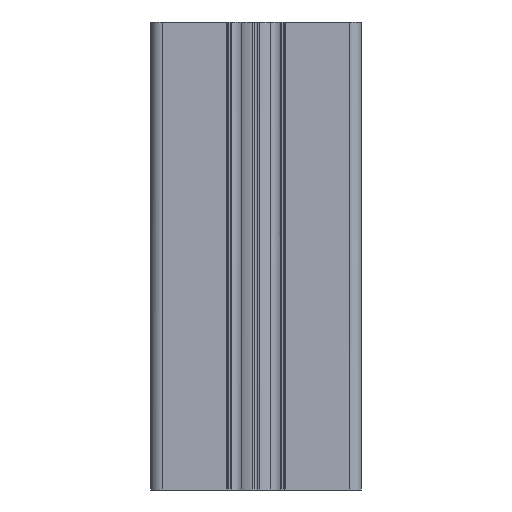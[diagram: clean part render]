
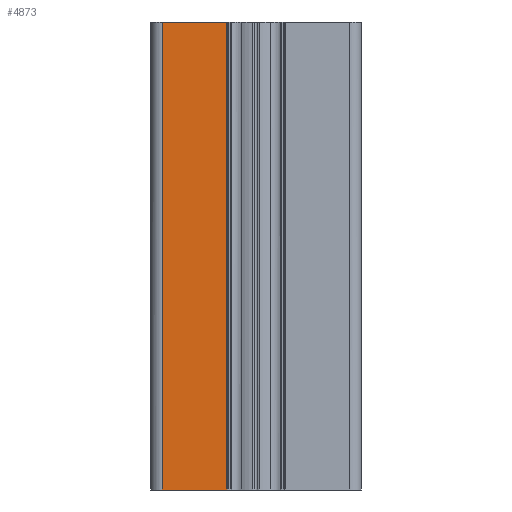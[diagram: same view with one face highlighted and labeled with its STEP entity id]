
A CAD part, front view. The second image highlights one B-rep face of the part: STEP entity #4873.
In plain terms, the highlighted free-form (B-spline) face has degree [1, 1] with [2, 2] control points.
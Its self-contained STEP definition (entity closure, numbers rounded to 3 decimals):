
#315 = EDGE_CURVE ( 'NONE', #6039, #2598, #6558, .T. ) ;
#620 = B_SPLINE_SURFACE_WITH_KNOTS ( 'NONE', 1, 1, ( 
 ( #4720, #9386 ),
 ( #1732, #3286 ) ),
 .UNSPECIFIED., .F., .F., .F.,
 ( 2, 2 ),
 ( 2, 2 ),
 ( 0., 1. ),
 ( 0., 1. ),
 .UNSPECIFIED. ) ;
#817 = CARTESIAN_POINT ( 'NONE',  ( 3859.017, 1456.288, 100. ) ) ;
#1015 = CARTESIAN_POINT ( 'NONE',  ( 3845.317, 1456.288, 0. ) ) ;
#1031 = B_SPLINE_CURVE_WITH_KNOTS ( 'NONE', 1,
 ( #1015, #7080 ),
 .UNSPECIFIED., .F., .F.,
 ( 2, 2 ),
 ( -1., 0. ),
 .UNSPECIFIED. ) ;
#1350 = CARTESIAN_POINT ( 'NONE',  ( 3845.317, 1456.288, 0. ) ) ;
#1351 = B_SPLINE_CURVE_WITH_KNOTS ( 'NONE', 1,
 ( #8337, #817 ),
 .UNSPECIFIED., .F., .F.,
 ( 2, 2 ),
 ( 0., 1. ),
 .UNSPECIFIED. ) ;
#1520 = FACE_OUTER_BOUND ( 'NONE', #5119, .T. ) ;
#1732 = CARTESIAN_POINT ( 'NONE',  ( 3845.317, 1456.288, 100. ) ) ;
#2024 = CARTESIAN_POINT ( 'NONE',  ( 3859.017, 1456.288, 100. ) ) ;
#2294 = CARTESIAN_POINT ( 'NONE',  ( 3859.017, 1456.288, 0. ) ) ;
#2577 = EDGE_CURVE ( 'NONE', #9234, #6228, #1351, .T. ) ;
#2598 = VERTEX_POINT ( 'NONE', #2294 ) ;
#2994 = ORIENTED_EDGE ( 'NONE', *, *, #7741, .F. ) ;
#3286 = CARTESIAN_POINT ( 'NONE',  ( 3859.017, 1456.288, 100. ) ) ;
#3617 = CARTESIAN_POINT ( 'NONE',  ( 3859.017, 1456.288, 0. ) ) ;
#3742 = CARTESIAN_POINT ( 'NONE',  ( 3859.017, 1456.288, 0. ) ) ;
#3891 = CARTESIAN_POINT ( 'NONE',  ( 3845.317, 1456.288, 100. ) ) ;
#4526 = ORIENTED_EDGE ( 'NONE', *, *, #2577, .F. ) ;
#4720 = CARTESIAN_POINT ( 'NONE',  ( 3845.317, 1456.288, 0. ) ) ;
#4873 = ADVANCED_FACE ( 'NONE', ( #1520 ), #620, .F. ) ;
#5046 = ORIENTED_EDGE ( 'NONE', *, *, #6903, .F. ) ;
#5119 = EDGE_LOOP ( 'NONE', ( #5046, #4526, #2994, #6746 ) ) ;
#6039 = VERTEX_POINT ( 'NONE', #6904 ) ;
#6228 = VERTEX_POINT ( 'NONE', #8780 ) ;
#6558 = B_SPLINE_CURVE_WITH_KNOTS ( 'NONE', 1,
 ( #1350, #3742 ),
 .UNSPECIFIED., .F., .F.,
 ( 2, 2 ),
 ( 0., 1. ),
 .UNSPECIFIED. ) ;
#6746 = ORIENTED_EDGE ( 'NONE', *, *, #315, .T. ) ;
#6760 = B_SPLINE_CURVE_WITH_KNOTS ( 'NONE', 1,
 ( #2024, #3617 ),
 .UNSPECIFIED., .F., .F.,
 ( 2, 2 ),
 ( -1., 0. ),
 .UNSPECIFIED. ) ;
#6903 = EDGE_CURVE ( 'NONE', #6228, #2598, #6760, .T. ) ;
#6904 = CARTESIAN_POINT ( 'NONE',  ( 3845.317, 1456.288, 0. ) ) ;
#7080 = CARTESIAN_POINT ( 'NONE',  ( 3845.317, 1456.288, 100. ) ) ;
#7741 = EDGE_CURVE ( 'NONE', #6039, #9234, #1031, .T. ) ;
#8337 = CARTESIAN_POINT ( 'NONE',  ( 3845.317, 1456.288, 100. ) ) ;
#8780 = CARTESIAN_POINT ( 'NONE',  ( 3859.017, 1456.288, 100. ) ) ;
#9234 = VERTEX_POINT ( 'NONE', #3891 ) ;
#9386 = CARTESIAN_POINT ( 'NONE',  ( 3859.017, 1456.288, 0. ) ) ;
